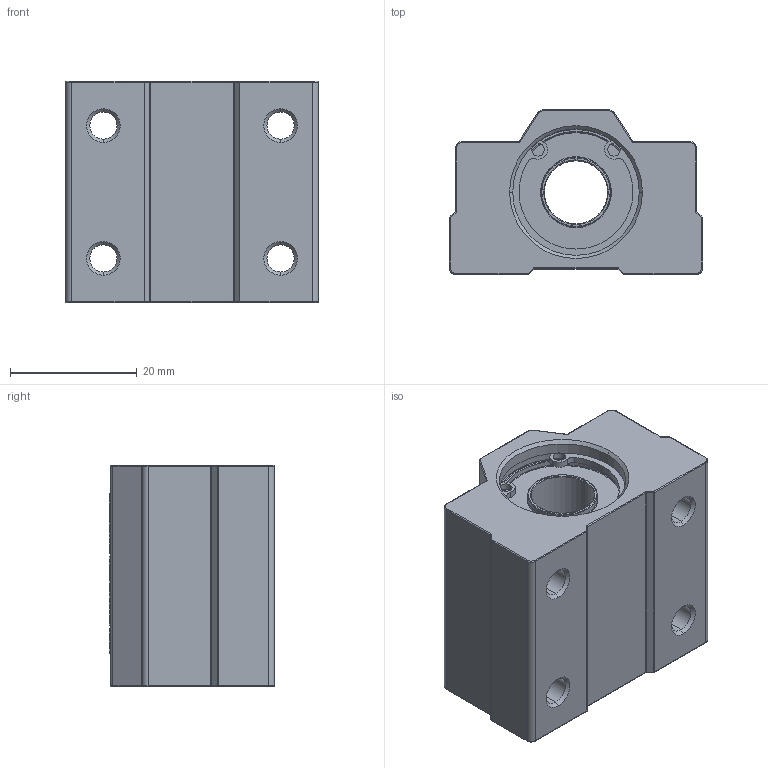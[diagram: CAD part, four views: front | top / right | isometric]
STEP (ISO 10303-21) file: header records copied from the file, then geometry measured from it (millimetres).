
FILE_DESCRIPTION (( 'STEP AP214' ), '1' );
FILE_NAME ('SC10UU.STEP', '2020-09-21T13:12:47', ( '' ), ( '' ), 'SwSTEP 2.0', 'SolidWorks 2018', '' );
FILE_SCHEMA (( 'AUTOMOTIVE_DESIGN' ));
Length unit declared in the file: millimetre
Products named in the file (4): SC10UU-03; SC10UU-02; SC10UU-01; SC10UU
Assembly tree (4 placements, depth 2):
  SC10UU
    SC10UU-01
    SC10UU-02
    SC10UU-03  x2
Bounding box: 40 x 26.1 x 35 mm (x, y, z)
Volume: 24845.1 mm3; surface area: 12645.1 mm2
Topology: 4 solids, 4 shells, 372 faces, 911 edges, 566 vertices
Faces by surface type: plane 150, cylinder 108, torus 48, bspline 38, cone 20, sphere 8
Entity records: 14257 total; most frequent: CARTESIAN_POINT 4087, ORIENTED_EDGE 1724, DIRECTION 1712, EDGE_CURVE 862, AXIS2_PLACEMENT_3D 602, VERTEX_POINT 536, LINE 508, VECTOR 508
